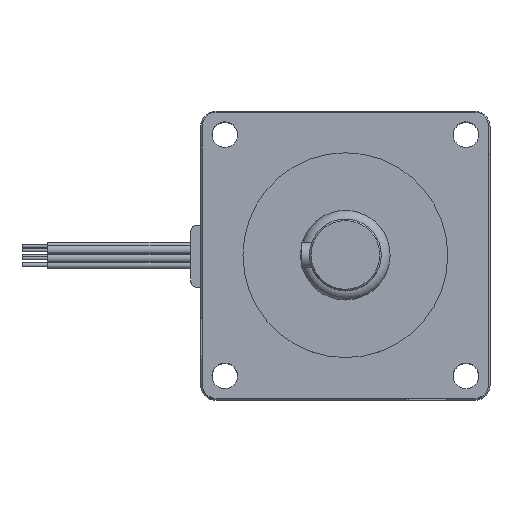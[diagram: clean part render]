
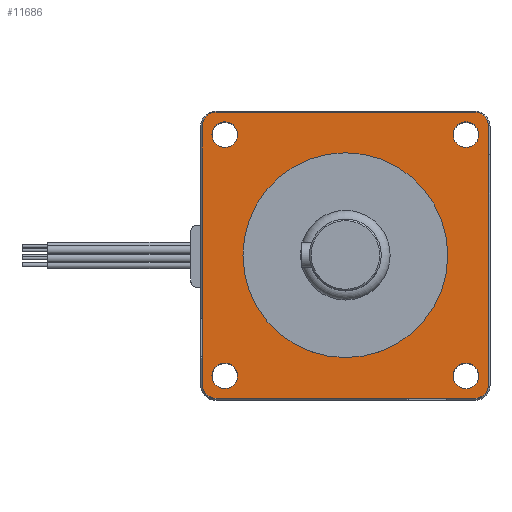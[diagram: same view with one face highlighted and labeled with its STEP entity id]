
A CAD part, top view. The second image highlights one B-rep face of the part: STEP entity #11686.
In plain terms, the highlighted planar face has unit normal (0, 0, 1).
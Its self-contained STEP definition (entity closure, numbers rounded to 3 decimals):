
#516=CIRCLE('',#12443,2.7);
#518=CIRCLE('',#12447,2.7);
#520=CIRCLE('',#12451,2.7);
#522=CIRCLE('',#12455,2.7);
#523=CIRCLE('',#12457,2.5);
#525=CIRCLE('',#12460,2.5);
#527=CIRCLE('',#12463,2.5);
#529=CIRCLE('',#12466,2.5);
#531=CIRCLE('',#12470,20.);
#670=FACE_BOUND('',#2225,.T.);
#671=FACE_BOUND('',#2226,.T.);
#672=FACE_BOUND('',#2227,.T.);
#673=FACE_BOUND('',#2228,.T.);
#674=FACE_BOUND('',#2229,.T.);
#1441=FACE_OUTER_BOUND('',#2224,.T.);
#2224=EDGE_LOOP('',(#10605,#10606,#10607,#10608,#10609,#10610,#10611,#10612));
#2225=EDGE_LOOP('',(#10613));
#2226=EDGE_LOOP('',(#10614));
#2227=EDGE_LOOP('',(#10615));
#2228=EDGE_LOOP('',(#10616));
#2229=EDGE_LOOP('',(#10617));
#3609=LINE('',#20568,#4714);
#3614=LINE('',#20581,#4719);
#3618=LINE('',#20593,#4723);
#3622=LINE('',#20605,#4727);
#4714=VECTOR('',#15057,50.5);
#4719=VECTOR('',#15070,50.5);
#4723=VECTOR('',#15082,50.5);
#4727=VECTOR('',#15094,50.5);
#5777=VERTEX_POINT('',#20565);
#5778=VERTEX_POINT('',#20567);
#5780=VERTEX_POINT('',#20573);
#5782=VERTEX_POINT('',#20579);
#5784=VERTEX_POINT('',#20585);
#5786=VERTEX_POINT('',#20591);
#5788=VERTEX_POINT('',#20597);
#5790=VERTEX_POINT('',#20603);
#5791=VERTEX_POINT('',#20610);
#5793=VERTEX_POINT('',#20615);
#5795=VERTEX_POINT('',#20620);
#5797=VERTEX_POINT('',#20625);
#5799=VERTEX_POINT('',#20631);
#7380=EDGE_CURVE('',#5778,#5777,#3609,.T.);
#7384=EDGE_CURVE('',#5777,#5780,#516,.T.);
#7387=EDGE_CURVE('',#5780,#5782,#3614,.T.);
#7390=EDGE_CURVE('',#5782,#5784,#518,.T.);
#7393=EDGE_CURVE('',#5784,#5786,#3618,.T.);
#7396=EDGE_CURVE('',#5786,#5788,#520,.T.);
#7399=EDGE_CURVE('',#5788,#5790,#3622,.T.);
#7401=EDGE_CURVE('',#5790,#5778,#522,.T.);
#7402=EDGE_CURVE('',#5791,#5791,#523,.T.);
#7404=EDGE_CURVE('',#5793,#5793,#525,.T.);
#7406=EDGE_CURVE('',#5795,#5795,#527,.T.);
#7408=EDGE_CURVE('',#5797,#5797,#529,.T.);
#7410=EDGE_CURVE('',#5799,#5799,#531,.T.);
#10605=ORIENTED_EDGE('',*,*,#7380,.T.);
#10606=ORIENTED_EDGE('',*,*,#7384,.T.);
#10607=ORIENTED_EDGE('',*,*,#7387,.T.);
#10608=ORIENTED_EDGE('',*,*,#7390,.T.);
#10609=ORIENTED_EDGE('',*,*,#7393,.T.);
#10610=ORIENTED_EDGE('',*,*,#7396,.T.);
#10611=ORIENTED_EDGE('',*,*,#7399,.T.);
#10612=ORIENTED_EDGE('',*,*,#7401,.T.);
#10613=ORIENTED_EDGE('',*,*,#7402,.T.);
#10614=ORIENTED_EDGE('',*,*,#7404,.T.);
#10615=ORIENTED_EDGE('',*,*,#7406,.T.);
#10616=ORIENTED_EDGE('',*,*,#7408,.T.);
#10617=ORIENTED_EDGE('',*,*,#7410,.T.);
#11037=PLANE('',#12469);
#11686=ADVANCED_FACE('',(#1441,#670,#671,#672,#673,#674),#11037,.T.);
#12443=AXIS2_PLACEMENT_3D('',#20575,#15064,#15065);
#12447=AXIS2_PLACEMENT_3D('',#20587,#15076,#15077);
#12451=AXIS2_PLACEMENT_3D('',#20599,#15088,#15089);
#12455=AXIS2_PLACEMENT_3D('',#20608,#15099,#15100);
#12457=AXIS2_PLACEMENT_3D('',#20611,#15103,#15104);
#12460=AXIS2_PLACEMENT_3D('',#20616,#15109,#15110);
#12463=AXIS2_PLACEMENT_3D('',#20621,#15115,#15116);
#12466=AXIS2_PLACEMENT_3D('',#20626,#15121,#15122);
#12469=AXIS2_PLACEMENT_3D('',#20630,#15127,#15128);
#12470=AXIS2_PLACEMENT_3D('',#20632,#15129,#15130);
#15057=DIRECTION('',(0.,1.,0.));
#15064=DIRECTION('center_axis',(0.,0.,1.));
#15065=DIRECTION('ref_axis',(1.,0.,0.));
#15070=DIRECTION('',(-1.,0.,0.));
#15076=DIRECTION('center_axis',(0.,0.,1.));
#15077=DIRECTION('ref_axis',(0.,1.,0.));
#15082=DIRECTION('',(0.,-1.,0.));
#15088=DIRECTION('center_axis',(0.,0.,1.));
#15089=DIRECTION('ref_axis',(-1.,0.,0.));
#15094=DIRECTION('',(1.,0.,0.));
#15099=DIRECTION('center_axis',(0.,0.,1.));
#15100=DIRECTION('ref_axis',(0.,-1.,0.));
#15103=DIRECTION('center_axis',(0.,0.,-1.));
#15104=DIRECTION('ref_axis',(-1.,0.,0.));
#15109=DIRECTION('center_axis',(0.,0.,-1.));
#15110=DIRECTION('ref_axis',(-1.,0.,0.));
#15115=DIRECTION('center_axis',(0.,0.,-1.));
#15116=DIRECTION('ref_axis',(-1.,0.,0.));
#15121=DIRECTION('center_axis',(0.,0.,-1.));
#15122=DIRECTION('ref_axis',(-1.,0.,0.));
#15127=DIRECTION('center_axis',(0.,0.,1.));
#15128=DIRECTION('ref_axis',(1.,0.,0.));
#15129=DIRECTION('center_axis',(0.,0.,-1.));
#15130=DIRECTION('ref_axis',(-1.,0.,0.));
#20565=CARTESIAN_POINT('',(56.2,53.5,79.));
#20567=CARTESIAN_POINT('',(56.2,3.,79.));
#20568=CARTESIAN_POINT('',(56.2,3.,79.));
#20573=CARTESIAN_POINT('',(53.5,56.2,79.));
#20575=CARTESIAN_POINT('Origin',(53.5,53.5,79.));
#20579=CARTESIAN_POINT('',(3.,56.2,79.));
#20581=CARTESIAN_POINT('',(53.5,56.2,79.));
#20585=CARTESIAN_POINT('',(0.3,53.5,79.));
#20587=CARTESIAN_POINT('Origin',(3.,53.5,79.));
#20591=CARTESIAN_POINT('',(0.3,3.,79.));
#20593=CARTESIAN_POINT('',(0.3,53.5,79.));
#20597=CARTESIAN_POINT('',(3.,0.3,79.));
#20599=CARTESIAN_POINT('Origin',(3.,3.,79.));
#20603=CARTESIAN_POINT('',(53.5,0.3,79.));
#20605=CARTESIAN_POINT('',(3.,0.3,79.));
#20608=CARTESIAN_POINT('Origin',(53.5,3.,79.));
#20610=CARTESIAN_POINT('',(54.3,51.8,79.));
#20611=CARTESIAN_POINT('Origin',(51.8,51.8,79.));
#20615=CARTESIAN_POINT('',(7.2,51.8,79.));
#20616=CARTESIAN_POINT('Origin',(4.7,51.8,79.));
#20620=CARTESIAN_POINT('',(7.2,4.7,79.));
#20621=CARTESIAN_POINT('Origin',(4.7,4.7,79.));
#20625=CARTESIAN_POINT('',(54.3,4.7,79.));
#20626=CARTESIAN_POINT('Origin',(51.8,4.7,79.));
#20630=CARTESIAN_POINT('Origin',(28.25,28.25,79.));
#20631=CARTESIAN_POINT('',(48.25,28.25,79.));
#20632=CARTESIAN_POINT('Origin',(28.25,28.25,79.));
